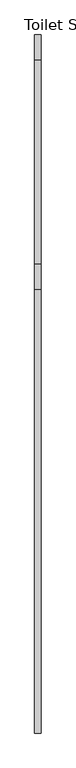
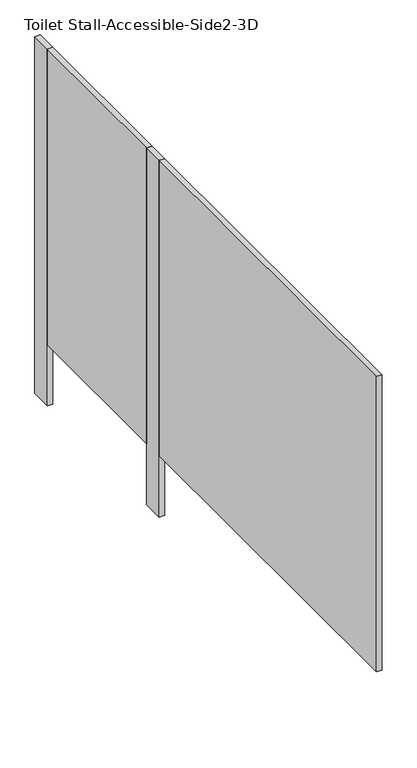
"""IFC4 building model written with IfcOpenShell, lengths in millimetres: proxy geometry."""

from ifc_helpers import new_model, si_unit, frame, origin, origin_with_axes, place, context, project, spatial, polyline, outline, extrude, source, transform, mapped, element, save


def toilet_stall_accessible_side2_3d_80249481(model_context):
    return source(origin(), model_context, "Body", "SweptSolid", [
        extrude(outline(polyline([(-661.8968462, 2819.4), (-661.8968462, 2006.6), (-687.2968462, 2006.6), (-687.2968462, 2819.4), (-661.8968462, 2819.4)])), frame((0.0, 0.0, 304.8), z_axis=(0.0, 0.0, 1.0), x_axis=(1.0, 0.0, 0.0)), (0.0, 0.0, 1.0), 1473.2),
        extrude(outline(polyline([(-661.8968462, 2921.0), (-661.8968462, 2819.4), (-687.2968462, 2819.4), (-687.2968462, 2921.0), (-661.8968462, 2921.0)])), origin_with_axes(), (0.0, 0.0, 1.0), 1778.0),
        extrude(outline(polyline([(-661.8968462, 2006.6), (-661.8968462, 1905.0), (-687.2968462, 1905.0), (-687.2968462, 2006.6), (-661.8968462, 2006.6)])), origin_with_axes(), (0.0, 0.0, 1.0), 1778.0),
        extrude(outline(polyline([(-687.2968462, 1905.0), (-661.8968462, 1905.0), (-661.8968462, 130.175), (-687.2968462, 130.175), (-687.2968462, 1905.0)])), frame((0.0, 0.0, 304.8), z_axis=(0.0, 0.0, 1.0), x_axis=(1.0, 0.0, 0.0)), (0.0, 0.0, 1.0), 1473.2),
    ])


if __name__ == "__main__":
    model = new_model("IFC4")
    model_context = context("Model", 3, world=origin())
    ifc_project = project(units=[si_unit("LENGTHUNIT", "METRE", prefix="MILLI")], contexts=[model_context])
    site = spatial("IfcSite", under=ifc_project)
    building = spatial("IfcBuilding", under=site)
    placement = place(None, origin())
    toilet_stall_accessible_side2_3d_shape = toilet_stall_accessible_side2_3d_80249481(model_context)
    element("IfcBuildingElementProxy", 1, Name="Toilet Stall-Accessible-Side2-3D : 60\" x  110\"", ObjectType="Toilet Stall-Accessible-Side2-3D : 60\" x  110\"", at=placement, inside=building, context=model_context, shape_type="MappedRepresentation", body=[
        mapped(toilet_stall_accessible_side2_3d_shape, transform((0.0, 0.0, 0.0), x_axis=(1.0, 0.0, 0.0), y_axis=(0.0, 1.0, 0.0), z_axis=(0.0, 0.0, 1.0))),
    ])
    save(model, "model.ifc")
